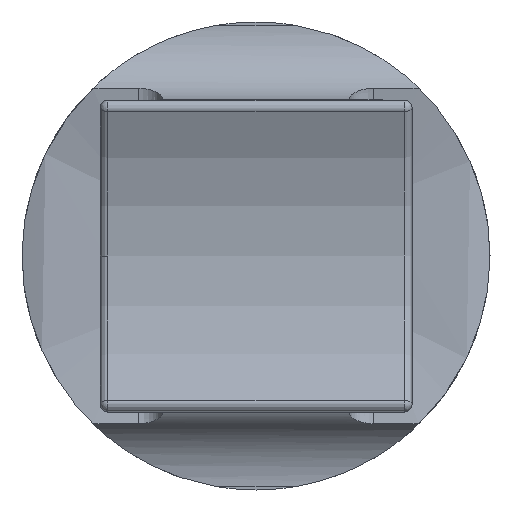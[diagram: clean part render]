
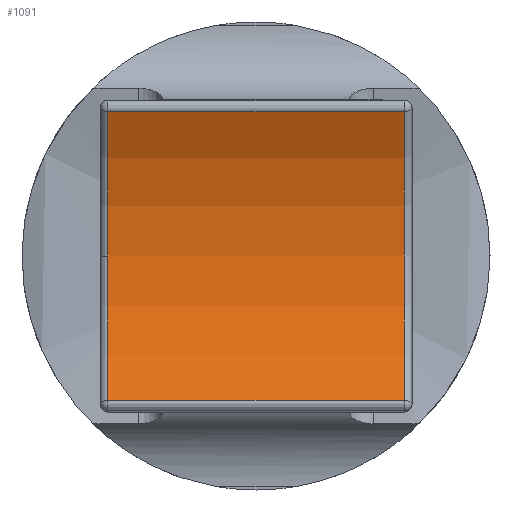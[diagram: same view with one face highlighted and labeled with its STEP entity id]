
A CAD part, front view. The second image highlights one B-rep face of the part: STEP entity #1091.
In plain terms, the highlighted cylindrical face has radius 10 mm (diameter 20 mm), a partial arc.
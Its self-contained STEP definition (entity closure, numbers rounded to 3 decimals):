
#16 = DIRECTION ( 'NONE',  ( 0., 0., -1. ) ) ;
#39 = CYLINDRICAL_SURFACE ( 'NONE', #661, 10. ) ;
#72 = CARTESIAN_POINT ( 'NONE',  ( -4.746, 8.864, -4.628 ) ) ;
#120 = CARTESIAN_POINT ( 'NONE',  ( -7.5, 8.864, -4.628 ) ) ;
#124 = VERTEX_POINT ( 'NONE', #72 ) ;
#126 = LINE ( 'NONE', #120, #217 ) ;
#175 = VECTOR ( 'NONE', #253, 1000. ) ;
#217 = VECTOR ( 'NONE', #521, 1000. ) ;
#253 = DIRECTION ( 'NONE',  ( -1., 0., 0. ) ) ;
#263 = CIRCLE ( 'NONE', #1318, 10. ) ;
#269 = VERTEX_POINT ( 'NONE', #496 ) ;
#281 = VERTEX_POINT ( 'NONE', #430 ) ;
#315 = ORIENTED_EDGE ( 'NONE', *, *, #898, .T. ) ;
#346 = CIRCLE ( 'NONE', #1087, 10. ) ;
#361 = ORIENTED_EDGE ( 'NONE', *, *, #1029, .T. ) ;
#386 = ORIENTED_EDGE ( 'NONE', *, *, #842, .T. ) ;
#396 = DIRECTION ( 'NONE',  ( -1., 0., 0. ) ) ;
#409 = VERTEX_POINT ( 'NONE', #881 ) ;
#430 = CARTESIAN_POINT ( 'NONE',  ( 4.746, 8.864, -4.628 ) ) ;
#449 = EDGE_CURVE ( 'NONE', #409, #512, #685, .T. ) ;
#496 = CARTESIAN_POINT ( 'NONE',  ( 4.746, 8.864, 4.628 ) ) ;
#512 = VERTEX_POINT ( 'NONE', #910 ) ;
#517 = DIRECTION ( 'NONE',  ( 1., 0., 0. ) ) ;
#521 = DIRECTION ( 'NONE',  ( 1., 0., 0. ) ) ;
#571 = CARTESIAN_POINT ( 'NONE',  ( 4.746, 0., 0. ) ) ;
#628 = CARTESIAN_POINT ( 'NONE',  ( -7.5, 0., 0. ) ) ;
#629 = EDGE_LOOP ( 'NONE', ( #1315, #821, #361, #315, #386 ) ) ;
#661 = AXIS2_PLACEMENT_3D ( 'NONE', #628, #517, #16 ) ;
#663 = CARTESIAN_POINT ( 'NONE',  ( -4.746, 0., 0. ) ) ;
#685 = CIRCLE ( 'NONE', #1162, 10. ) ;
#698 = DIRECTION ( 'NONE',  ( 1., 0., 0. ) ) ;
#761 = CARTESIAN_POINT ( 'NONE',  ( -7.5, 8.864, 4.628 ) ) ;
#802 = DIRECTION ( 'NONE',  ( 0., -1., 0. ) ) ;
#821 = ORIENTED_EDGE ( 'NONE', *, *, #1223, .T. ) ;
#842 = EDGE_CURVE ( 'NONE', #269, #409, #1267, .T. ) ;
#881 = CARTESIAN_POINT ( 'NONE',  ( -4.746, 8.864, 4.628 ) ) ;
#898 = EDGE_CURVE ( 'NONE', #281, #269, #346, .T. ) ;
#910 = CARTESIAN_POINT ( 'NONE',  ( -4.746, 10., 0. ) ) ;
#954 = FACE_OUTER_BOUND ( 'NONE', #629, .T. ) ;
#977 = DIRECTION ( 'NONE',  ( 0., 1., 0. ) ) ;
#1008 = DIRECTION ( 'NONE',  ( 0., 1., 0. ) ) ;
#1029 = EDGE_CURVE ( 'NONE', #124, #281, #126, .T. ) ;
#1087 = AXIS2_PLACEMENT_3D ( 'NONE', #571, #698, #802 ) ;
#1091 = ADVANCED_FACE ( 'NONE', ( #954 ), #39, .F. ) ;
#1162 = AXIS2_PLACEMENT_3D ( 'NONE', #663, #1188, #977 ) ;
#1188 = DIRECTION ( 'NONE',  ( -1., 0., 0. ) ) ;
#1223 = EDGE_CURVE ( 'NONE', #512, #124, #263, .T. ) ;
#1267 = LINE ( 'NONE', #761, #175 ) ;
#1305 = CARTESIAN_POINT ( 'NONE',  ( -4.746, 0., 0. ) ) ;
#1315 = ORIENTED_EDGE ( 'NONE', *, *, #449, .T. ) ;
#1318 = AXIS2_PLACEMENT_3D ( 'NONE', #1305, #396, #1008 ) ;
